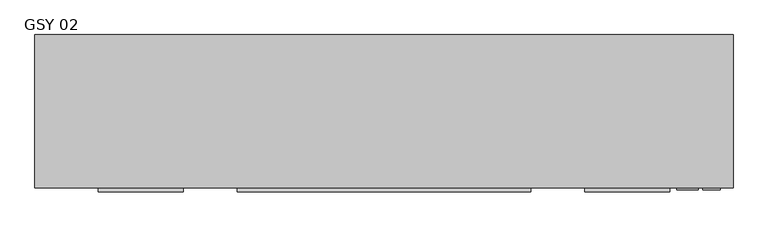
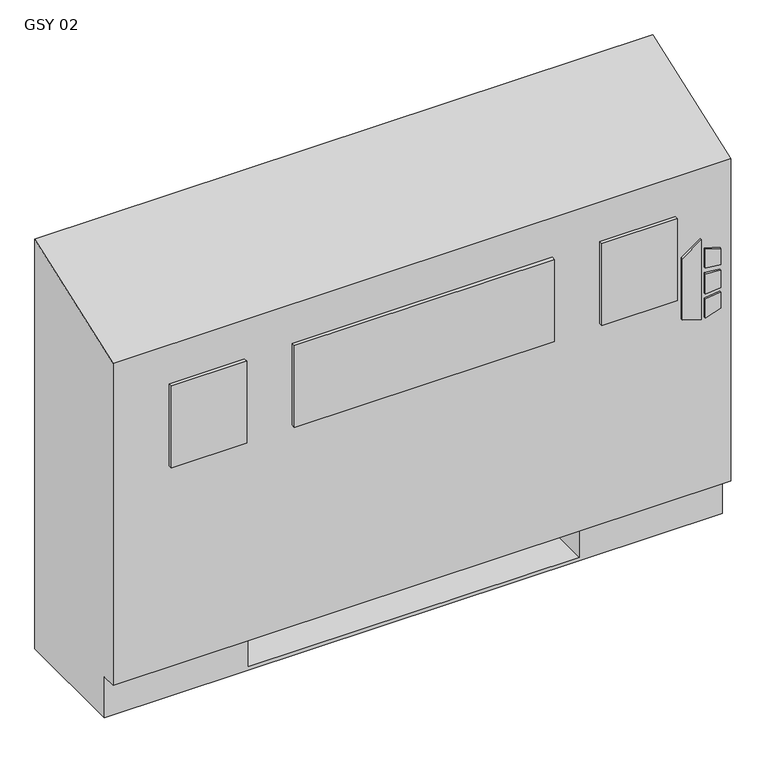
"""IFC4 building model written with IfcOpenShell, lengths in millimetres: proxy geometry, Vertical_Fan_Coil_Unit_-_GSY_-_IEC_-_2-Pipe_FS-FR_LH_2022 : GSY 02."""

from ifc_helpers import new_model, si_unit, point, frame, frame_2d, origin, place, context, project, spatial, polyline, circle_curve, trimmed, segment, composite_curve, outline, extrude, source, transform, mapped, element, save
from ifc_brep_helpers import plane_surface, revolved_surface, advanced_brep


def gsy_02_18074718(model_context):
    return source(origin(), model_context, "Body", "SolidModel", [
        extrude(outline(polyline([(391.6086829, 589.0368862), (381.6606126, 621.2102728), (523.831537, 621.2102728), (500.8095309, 589.0368862), (391.6086829, 589.0368862)])), frame((0.0, 12.7, 0.0), z_axis=(0.0, 1.0, 0.0), x_axis=(0.0, 0.0, 1.0)), (0.0, 0.0, 1.0), 3.175),
        extrude(outline(polyline([(470.6079683, 627.9686058), (467.4055757, 654.05), (496.6344168, 654.05), (504.6988318, 627.9686058), (470.6079683, 627.9686058)])), frame((0.0, 12.7, 0.0), z_axis=(0.0, 1.0, 0.0), x_axis=(0.0, 0.0, 1.0)), (0.0, 0.0, 1.0), 3.175),
        extrude(outline(polyline([(418.7444414, 654.05), (415.0789404, 627.9686058), (381.6606126, 627.9686058), (390.2948498, 654.05), (418.7444414, 654.05)])), frame((0.0, 12.7, 0.0), z_axis=(0.0, 1.0, 0.0), x_axis=(0.0, 0.0, 1.0)), (0.0, 0.0, 1.0), 3.175),
        extrude(outline(polyline([(458.0596028, 654.05), (460.3414292, 627.9686058), (424.4038806, 627.9686058), (427.1451456, 654.05), (458.0596028, 654.05)])), frame((0.0, 12.7, 0.0), z_axis=(0.0, 1.0, 0.0), x_axis=(0.0, 0.0, 1.0)), (0.0, 0.0, 1.0), 3.175),
        extrude(outline(polyline([(-147.193, 9.525), (-274.193, 9.525), (-274.193, 15.875), (-147.193, 15.875), (-147.193, 9.525)])), frame((0.0, 0.0, 431.8), z_axis=(0.0, 0.0, 1.0), x_axis=(1.0, 0.0, 0.0)), (0.0, 0.0, 1.0), 146.05),
        extrude(outline(polyline([(371.475, 9.525), (-66.675, 9.525), (-66.675, 15.875), (371.475, 15.875), (371.475, 9.525)])), frame((0.0, 0.0, 431.8), z_axis=(0.0, 0.0, 1.0), x_axis=(1.0, 0.0, 0.0)), (0.0, 0.0, 1.0), 146.05),
        extrude(outline(polyline([(578.993, 9.525), (451.993, 9.525), (451.993, 15.875), (578.993, 15.875), (578.993, 9.525)])), frame((0.0, 0.0, 431.8), z_axis=(0.0, 0.0, 1.0), x_axis=(1.0, 0.0, 0.0)), (0.0, 0.0, 1.0), 146.05),
        extrude(outline(polyline([(431.8, 81.534), (431.8, 223.266), (552.45, 223.266), (552.45, 81.534), (431.8, 81.534)])), frame((0.0, 0.0, 327.025), z_axis=(0.0, 0.0, 1.0), x_axis=(1.0, 0.0, 0.0)), (0.0, 0.0, 1.0), 260.35),
        extrude(outline(composite_curve([segment(trimmed(circle_curve(frame_2d((80.645, 397.002)), 7.9375), [point((80.645, 404.9395))], [point((80.645, 389.0645))], False, "CARTESIAN"), True, "CONTINUOUS"), segment(trimmed(circle_curve(frame_2d((80.645, 397.002)), 7.9375), [point((80.645, 389.0645))], [point((80.645, 404.9395))], False, "CARTESIAN"), True, "CONTINUOUS")], self_intersect=False)), frame((-177.8, 0.0, 0.0), z_axis=(1.0, 0.0, 0.0), x_axis=(0.0, 1.0, 0.0)), (0.0, 0.0, 1.0), 50.8),
        extrude(outline(composite_curve([segment(trimmed(circle_curve(frame_2d((156.8958, 535.8892)), 7.9375), [point((156.8958, 543.8267))], [point((156.8958, 527.9517))], False, "CARTESIAN"), True, "CONTINUOUS"), segment(trimmed(circle_curve(frame_2d((156.8958, 535.8892)), 7.9375), [point((156.8958, 527.9517))], [point((156.8958, 543.8267))], False, "CARTESIAN"), True, "CONTINUOUS")], self_intersect=False)), frame((-177.8, 0.0, 0.0), z_axis=(1.0, 0.0, 0.0), x_axis=(0.0, 1.0, 0.0)), (0.0, 0.0, 1.0), 50.8),
        advanced_brep(
        [(-368.3, 244.475, 0.0), (673.1, 244.475, 0.0), (673.1, 41.275, 0.0), (-368.3, 41.275, 0.0), (-368.3, 244.475, 730.25), (673.1, 244.475, 730.25), (431.8, 244.475, 73.025), (660.4, 244.475, 73.025), (660.4, 244.475, 654.05), (431.8, 244.475, 654.05), (431.8, 244.475, 414.8650565), (460.375, 244.475, 414.8650565), (460.375, 244.475, 385.2349435), (431.8, 244.475, 385.2349435), (431.8, 244.475, 287.3375), (460.375, 244.475, 287.3375), (460.375, 244.475, 258.7625), (431.8, 244.475, 258.7625), (431.8, 244.475, 141.2875), (460.375, 244.475, 141.2875), (460.375, 244.475, 112.7125), (431.8, 244.475, 112.7125), (-127.0, 244.475, 654.05), (-355.6, 244.475, 654.05), (-355.6, 244.475, 73.025), (-127.0, 244.475, 73.025), (-127.0, 244.475, 112.7125), (-155.575, 244.475, 112.7125), (-155.575, 244.475, 141.2875), (-127.0, 244.475, 141.2875), (-127.0, 244.475, 258.7625), (-155.575, 244.475, 258.7625), (-155.575, 244.475, 287.3375), (-127.0, 244.475, 287.3375), (-127.0, 244.475, 385.2349435), (-155.575, 244.475, 385.2349435), (-155.575, 244.475, 414.8650565), (-127.0, 244.475, 414.8650565), (450.0626, 244.475, 127.0), (438.9374, 244.475, 127.0), (450.0626, 244.475, 400.05), (438.9374, 244.475, 400.05), (450.0626, 244.475, 273.05), (438.9374, 244.475, 273.05), (-134.1374, 244.475, 127.0), (-145.2626, 244.475, 127.0), (-134.1374, 244.475, 273.05), (-145.2626, 244.475, 273.05), (-134.1374, 244.475, 400.05), (-145.2626, 244.475, 400.05), (-368.3, 41.275, 73.025), (-368.3, 15.875, 73.025), (-368.3, 15.875, 647.7), (673.1, 15.875, 73.025), (673.1, 15.875, 647.7), (673.1, 41.275, 73.025), (-127.0, 41.275, 73.025), (-127.0, 225.425, 73.025), (431.8, 225.425, 73.025), (431.8, 41.275, 73.025), (431.8, 41.275, 6.35), (-127.0, 41.275, 6.35), (431.8, 41.275, 654.05), (660.4, 41.275, 654.05), (660.4, 41.275, 73.025), (431.8, 41.275, 73.025), (-127.0, 41.275, 654.05), (-127.0, 41.275, 73.025), (-355.6, 41.275, 73.025), (-355.6, 41.275, 654.05), (431.8, 225.425, 73.025), (431.8, 238.125, 112.7125), (431.8, 238.125, 141.2875), (431.8, 238.125, 258.7625), (431.8, 238.125, 287.3375), (431.8, 238.125, 385.2349435), (431.8, 238.125, 414.8650565), (-127.0, 225.425, 73.025), (-127.0, 238.125, 414.8650565), (-127.0, 238.125, 385.2349435), (-127.0, 238.125, 287.3375), (-127.0, 238.125, 258.7625), (-127.0, 238.125, 141.2875), (-127.0, 238.125, 112.7125), (-127.0, 225.425, 6.35), (431.8, 225.425, 6.35), (460.375, 238.125, 112.7125), (460.375, 238.125, 141.2875), (438.9374, 238.125, 127.0), (450.0626, 238.125, 127.0), (460.375, 238.125, 258.7625), (460.375, 238.125, 287.3375), (438.9374, 238.125, 273.05), (450.0626, 238.125, 273.05), (460.375, 238.125, 385.2349435), (460.375, 238.125, 414.8650565), (438.9374, 238.125, 400.05), (450.0626, 238.125, 400.05), (-155.575, 238.125, 141.2875), (-155.575, 238.125, 112.7125), (-145.2626, 238.125, 127.0), (-134.1374, 238.125, 127.0), (-155.575, 238.125, 287.3375), (-155.575, 238.125, 258.7625), (-145.2626, 238.125, 273.05), (-134.1374, 238.125, 273.05), (-155.575, 238.125, 414.8650565), (-155.575, 238.125, 385.2349435), (-145.2626, 238.125, 400.05), (-134.1374, 238.125, 400.05)],
        [
            (0, 1),
            (1, 2),
            (2, 3),
            (3, 0),
            (0, 4),
            (4, 5),
            (5, 1),
            (6, 7),
            (7, 8),
            (8, 9),
            (9, 10),
            (10, 11),
            (11, 12),
            (12, 13),
            (13, 14),
            (14, 15),
            (15, 16),
            (16, 17),
            (17, 18),
            (18, 19),
            (19, 20),
            (20, 21),
            (21, 6),
            (22, 23),
            (23, 24),
            (24, 25),
            (25, 26),
            (26, 27),
            (27, 28),
            (28, 29),
            (29, 30),
            (30, 31),
            (31, 32),
            (32, 33),
            (33, 34),
            (34, 35),
            (35, 36),
            (36, 37),
            (37, 22),
            (38, 39, circle_curve(frame((444.5, 244.475, 127.0), z_axis=(0.0, -1.0, 0.0), x_axis=(-1.0, 0.0, 0.0)), 5.5626)),
            (39, 38, circle_curve(frame((444.5, 244.475, 127.0), z_axis=(0.0, -1.0, 0.0), x_axis=(-1.0, 0.0, 0.0)), 5.5626)),
            (40, 41, circle_curve(frame((444.5, 244.475, 400.05), z_axis=(0.0, -1.0, 0.0), x_axis=(-1.0, 0.0, 0.0)), 5.5626)),
            (41, 40, circle_curve(frame((444.5, 244.475, 400.05), z_axis=(0.0, -1.0, 0.0), x_axis=(-1.0, 0.0, 0.0)), 5.5626)),
            (42, 43, circle_curve(frame((444.5, 244.475, 273.05), z_axis=(0.0, -1.0, 0.0), x_axis=(-1.0, 0.0, 0.0)), 5.5626)),
            (43, 42, circle_curve(frame((444.5, 244.475, 273.05), z_axis=(0.0, -1.0, 0.0), x_axis=(-1.0, 0.0, 0.0)), 5.5626)),
            (44, 45, circle_curve(frame((-139.7, 244.475, 127.0), z_axis=(0.0, -1.0, 0.0), x_axis=(-1.0, 0.0, 0.0)), 5.5626)),
            (45, 44, circle_curve(frame((-139.7, 244.475, 127.0), z_axis=(0.0, -1.0, 0.0), x_axis=(-1.0, 0.0, 0.0)), 5.5626)),
            (46, 47, circle_curve(frame((-139.7, 244.475, 273.05), z_axis=(0.0, -1.0, 0.0), x_axis=(-1.0, 0.0, 0.0)), 5.5626)),
            (47, 46, circle_curve(frame((-139.7, 244.475, 273.05), z_axis=(0.0, -1.0, 0.0), x_axis=(-1.0, 0.0, 0.0)), 5.5626)),
            (48, 49, circle_curve(frame((-139.7, 244.475, 400.05), z_axis=(0.0, -1.0, 0.0), x_axis=(-1.0, 0.0, 0.0)), 5.5626)),
            (49, 48, circle_curve(frame((-139.7, 244.475, 400.05), z_axis=(0.0, -1.0, 0.0), x_axis=(-1.0, 0.0, 0.0)), 5.5626)),
            (3, 50),
            (50, 51),
            (51, 52),
            (52, 4),
            (51, 53),
            (53, 54),
            (54, 52),
            (5, 54),
            (53, 55),
            (55, 2),
            (50, 56),
            (56, 57),
            (57, 58),
            (58, 59),
            (59, 55),
            (59, 60),
            (60, 61),
            (61, 56),
            (62, 63),
            (63, 64),
            (64, 65),
            (65, 62),
            (66, 67),
            (67, 68),
            (68, 69),
            (69, 66),
            (65, 70),
            (70, 6),
            (21, 71),
            (71, 72),
            (72, 18),
            (17, 73),
            (73, 74),
            (74, 14),
            (13, 75),
            (75, 76),
            (76, 10),
            (9, 62),
            (64, 7),
            (63, 8),
            (69, 23),
            (22, 66),
            (68, 24),
            (67, 77),
            (77, 25),
            (37, 78),
            (78, 79),
            (79, 34),
            (33, 80),
            (80, 81),
            (81, 30),
            (29, 82),
            (82, 83),
            (83, 26),
            (57, 84),
            (84, 85),
            (85, 58),
            (85, 60),
            (84, 61),
            (71, 86),
            (86, 87),
            (87, 72),
            (88, 89, circle_curve(frame((444.5, 238.125, 127.0), z_axis=(0.0, 1.0, 0.0), x_axis=(-1.0, 0.0, 0.0)), 5.5626)),
            (89, 88, circle_curve(frame((444.5, 238.125, 127.0), z_axis=(0.0, 1.0, 0.0), x_axis=(-1.0, 0.0, 0.0)), 5.5626)),
            (73, 90),
            (90, 91),
            (91, 74),
            (92, 93, circle_curve(frame((444.5, 238.125, 273.05), z_axis=(0.0, 1.0, 0.0), x_axis=(-1.0, 0.0, 0.0)), 5.5626)),
            (93, 92, circle_curve(frame((444.5, 238.125, 273.05), z_axis=(0.0, 1.0, 0.0), x_axis=(-1.0, 0.0, 0.0)), 5.5626)),
            (75, 94),
            (94, 95),
            (95, 76),
            (96, 97, circle_curve(frame((444.5, 238.125, 400.05), z_axis=(0.0, 1.0, 0.0), x_axis=(-1.0, 0.0, 0.0)), 5.5626)),
            (97, 96, circle_curve(frame((444.5, 238.125, 400.05), z_axis=(0.0, 1.0, 0.0), x_axis=(-1.0, 0.0, 0.0)), 5.5626)),
            (98, 99),
            (99, 83),
            (82, 98),
            (100, 101, circle_curve(frame((-139.7, 238.125, 127.0), z_axis=(0.0, 1.0, 0.0), x_axis=(-1.0, 0.0, 0.0)), 5.5626)),
            (101, 100, circle_curve(frame((-139.7, 238.125, 127.0), z_axis=(0.0, 1.0, 0.0), x_axis=(-1.0, 0.0, 0.0)), 5.5626)),
            (102, 103),
            (103, 81),
            (80, 102),
            (104, 105, circle_curve(frame((-139.7, 238.125, 273.05), z_axis=(0.0, 1.0, 0.0), x_axis=(-1.0, 0.0, 0.0)), 5.5626)),
            (105, 104, circle_curve(frame((-139.7, 238.125, 273.05), z_axis=(0.0, 1.0, 0.0), x_axis=(-1.0, 0.0, 0.0)), 5.5626)),
            (106, 107),
            (107, 79),
            (78, 106),
            (108, 109, circle_curve(frame((-139.7, 238.125, 400.05), z_axis=(0.0, 1.0, 0.0), x_axis=(-1.0, 0.0, 0.0)), 5.5626)),
            (109, 108, circle_curve(frame((-139.7, 238.125, 400.05), z_axis=(0.0, 1.0, 0.0), x_axis=(-1.0, 0.0, 0.0)), 5.5626)),
            (87, 19),
            (86, 20),
            (91, 15),
            (90, 16),
            (95, 11),
            (94, 12),
            (28, 98),
            (99, 27),
            (32, 102),
            (103, 31),
            (36, 106),
            (107, 35),
            (88, 39),
            (38, 89),
            (96, 41),
            (40, 97),
            (92, 43),
            (42, 93),
            (100, 45),
            (44, 101),
            (104, 47),
            (46, 105),
            (108, 49),
            (48, 109),
        ],
        [
            plane_surface(frame((-368.3, 244.475, 0.0), z_axis=(0.0, 0.0, -1.0), x_axis=(1.0, 0.0, 0.0))),
            plane_surface(frame((673.1, 244.475, 730.25), z_axis=(0.0, 1.0, 0.0), x_axis=(0.0, 0.0, -1.0))),
            plane_surface(frame((-368.3, 244.475, 730.25), z_axis=(-1.0, 0.0, 0.0), x_axis=(0.0, 0.0, -1.0))),
            plane_surface(frame((-368.3, 15.875, 730.25), z_axis=(0.0, -1.0, 0.0), x_axis=(0.0, 0.0, -1.0))),
            plane_surface(frame((673.1, 15.875, 730.25), z_axis=(1.0, 0.0, 0.0), x_axis=(0.0, 0.0, -1.0))),
            plane_surface(frame((-368.3, 15.875, 73.025), z_axis=(0.0, 0.0, -1.0), x_axis=(1.0, 0.0, 0.0))),
            plane_surface(frame((-368.3, 41.275, 73.025), z_axis=(0.0, -1.0, 0.0), x_axis=(1.0, 0.0, 0.0))),
            plane_surface(frame((431.8, 41.275, 654.05), z_axis=(0.0, 1.0, 0.0), x_axis=(0.0, 0.0, -1.0))),
            plane_surface(frame((431.8, 41.275, 654.05), z_axis=(1.0, 0.0, 0.0), x_axis=(0.0, 1.0, 0.0))),
            plane_surface(frame((431.8, 41.275, 73.025), z_axis=(0.0, 0.0, 1.0), x_axis=(0.0, 1.0, 0.0))),
            plane_surface(frame((660.4, 41.275, 73.025), z_axis=(-1.0, 0.0, 0.0), x_axis=(0.0, 1.0, 0.0))),
            plane_surface(frame((660.4, 41.275, 654.05), z_axis=(0.0, 0.0, -1.0), x_axis=(0.0, 1.0, 0.0))),
            plane_surface(frame((-127.0, 41.275, 654.05), z_axis=(0.0, 0.0, -1.0), x_axis=(0.0, 1.0, 0.0))),
            plane_surface(frame((-355.6, 41.275, 654.05), z_axis=(1.0, 0.0, 0.0), x_axis=(0.0, 1.0, 0.0))),
            plane_surface(frame((-355.6, 41.275, 73.025), z_axis=(0.0, 0.0, 1.0), x_axis=(0.0, 1.0, 0.0))),
            plane_surface(frame((-127.0, 41.275, 73.025), z_axis=(-1.0, 0.0, 0.0), x_axis=(0.0, 1.0, 0.0))),
            plane_surface(frame((431.8, 225.425, 73.025), z_axis=(0.0, -1.0, 0.0), x_axis=(0.0, 0.0, -1.0))),
            plane_surface(frame((431.8, 225.425, 73.025), z_axis=(-1.0, 0.0, 0.0), x_axis=(0.0, -1.0, 0.0))),
            plane_surface(frame((431.8, 225.425, 6.35), z_axis=(0.0, 0.0, 1.0), x_axis=(0.0, -1.0, 0.0))),
            plane_surface(frame((-127.0, 225.425, 6.35), z_axis=(1.0, 0.0, 0.0), x_axis=(0.0, -1.0, 0.0))),
            plane_surface(frame((460.375, 238.125, 141.2875), z_axis=(0.0, -1.0, 0.0), x_axis=(-1.0, 0.0, 0.0))),
            plane_surface(frame((431.8, 244.475, 141.2875), z_axis=(0.0, 0.0, 1.0), x_axis=(0.0, -1.0, 0.0))),
            plane_surface(frame((460.375, 244.475, 141.2875), z_axis=(1.0, 0.0, 0.0), x_axis=(0.0, -1.0, 0.0))),
            plane_surface(frame((460.375, 244.475, 112.7125), z_axis=(0.0, 0.0, -1.0), x_axis=(0.0, -1.0, 0.0))),
            plane_surface(frame((431.8, 244.475, 287.3375), z_axis=(0.0, 0.0, 1.0), x_axis=(0.0, -1.0, 0.0))),
            plane_surface(frame((460.375, 244.475, 287.3375), z_axis=(1.0, 0.0, 0.0), x_axis=(0.0, -1.0, 0.0))),
            plane_surface(frame((460.375, 244.475, 258.7625), z_axis=(0.0, 0.0, -1.0), x_axis=(0.0, -1.0, 0.0))),
            plane_surface(frame((431.8, 244.475, 414.8650565), z_axis=(0.0, 0.0, 1.0), x_axis=(0.0, -1.0, 0.0))),
            plane_surface(frame((460.375, 244.475, 414.8650565), z_axis=(1.0, 0.0, 0.0), x_axis=(0.0, -1.0, 0.0))),
            plane_surface(frame((460.375, 244.475, 385.2349435), z_axis=(0.0, 0.0, -1.0), x_axis=(0.0, -1.0, 0.0))),
            plane_surface(frame((-155.575, 244.475, 141.2875), z_axis=(0.0, 0.0, 1.0), x_axis=(0.0, -1.0, 0.0))),
            plane_surface(frame((-127.0, 244.475, 112.7125), z_axis=(0.0, 0.0, -1.0), x_axis=(0.0, -1.0, 0.0))),
            plane_surface(frame((-155.575, 244.475, 112.7125), z_axis=(-1.0, 0.0, 0.0), x_axis=(0.0, -1.0, 0.0))),
            plane_surface(frame((-155.575, 244.475, 287.3375), z_axis=(0.0, 0.0, 1.0), x_axis=(0.0, -1.0, 0.0))),
            plane_surface(frame((-127.0, 244.475, 258.7625), z_axis=(0.0, 0.0, -1.0), x_axis=(0.0, -1.0, 0.0))),
            plane_surface(frame((-155.575, 244.475, 258.7625), z_axis=(-1.0, 0.0, 0.0), x_axis=(0.0, -1.0, 0.0))),
            plane_surface(frame((-155.575, 244.475, 414.8650565), z_axis=(0.0, 0.0, 1.0), x_axis=(0.0, -1.0, 0.0))),
            plane_surface(frame((-127.0, 244.475, 385.2349435), z_axis=(0.0, 0.0, -1.0), x_axis=(0.0, -1.0, 0.0))),
            plane_surface(frame((-155.575, 244.475, 385.2349435), z_axis=(-1.0, 0.0, 0.0), x_axis=(0.0, -1.0, 0.0))),
            revolved_surface(polyline([(438.9374, 238.125, 127.0), (438.9374, 244.475, 127.0)]), (444.5, 244.475, 127.0), (0.0, -1.0, 0.0)),
            revolved_surface(polyline([(438.9374, 238.125, 400.05), (438.9374, 244.475, 400.05)]), (444.5, 244.475, 400.05), (0.0, -1.0, 0.0)),
            revolved_surface(polyline([(438.9374, 238.125, 273.05), (438.9374, 244.475, 273.05)]), (444.5, 244.475, 273.05), (0.0, -1.0, 0.0)),
            revolved_surface(polyline([(-145.2626, 238.125, 127.0), (-145.2626, 244.475, 127.0)]), (-139.7, 244.475, 127.0), (0.0, -1.0, 0.0)),
            revolved_surface(polyline([(-145.2626, 238.125, 273.05), (-145.2626, 244.475, 273.05)]), (-139.7, 244.475, 273.05), (0.0, -1.0, 0.0)),
            revolved_surface(polyline([(-145.2626, 238.125, 400.05), (-145.2626, 244.475, 400.05)]), (-139.7, 244.475, 400.05), (0.0, -1.0, 0.0)),
            plane_surface(frame((-368.3, 244.475, 730.25), z_axis=(0.0, -0.33964446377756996, 0.9405538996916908), x_axis=(1.0, 0.0, 0.0))),
        ],
        [
            (0, [[1, 2, 3, 4]]),
            (1, [[-1, 5, 6, 7], [8, 9, 10, 11, 12, 13, 14, 15, 16, 17, 18, 19, 20, 21, 22, 23], [24, 25, 26, 27, 28, 29, 30, 31, 32, 33, 34, 35, 36, 37, 38, 39], [40, 41], [42, 43], [44, 45], [46, 47], [48, 49], [50, 51]]),
            (2, [[-5, -4, 52, 53, 54, 55]]),
            (3, [[56, 57, 58, -54]]),
            (4, [[-7, 59, -57, 60, 61, -2]]),
            (5, [[-53, 62, 63, 64, 65, 66, -60, -56]]),
            (6, [[-3, -61, -66, 67, 68, 69, -62, -52]]),
            (7, [[70, 71, 72, 73]]),
            (7, [[74, 75, 76, 77]]),
            (8, [[-73, 78, 79, -23, 80, 81, 82, -19, 83, 84, 85, -15, 86, 87, 88, -11, 89]]),
            (9, [[-72, 90, -8, -79, -78]]),
            (10, [[-71, 91, -9, -90]]),
            (11, [[-70, -89, -10, -91]]),
            (12, [[-77, 92, -24, 93]]),
            (13, [[-76, 94, -25, -92]]),
            (14, [[-75, 95, 96, -26, -94]]),
            (15, [[-74, -93, -39, 97, 98, 99, -35, 100, 101, 102, -31, 103, 104, 105, -27, -96, -95]]),
            (16, [[-64, 106, 107, 108]]),
            (17, [[-108, 109, -67, -65]]),
            (18, [[-107, 110, -68, -109]]),
            (19, [[-106, -63, -69, -110]]),
            (20, [[111, 112, 113, -81], [114, 115]]),
            (20, [[116, 117, 118, -84], [119, 120]]),
            (20, [[121, 122, 123, -87], [124, 125]]),
            (20, [[126, 127, -104, 128], [129, 130]]),
            (20, [[131, 132, -101, 133], [134, 135]]),
            (20, [[136, 137, -98, 138], [139, 140]]),
            (21, [[-113, 141, -20, -82]]),
            (22, [[-112, 142, -21, -141]]),
            (23, [[-111, -80, -22, -142]]),
            (24, [[-118, 143, -16, -85]]),
            (25, [[-117, 144, -17, -143]]),
            (26, [[-116, -83, -18, -144]]),
            (27, [[-123, 145, -12, -88]]),
            (28, [[-122, 146, -13, -145]]),
            (29, [[-121, -86, -14, -146]]),
            (30, [[-128, -103, -30, 147]]),
            (31, [[-127, 148, -28, -105]]),
            (32, [[-126, -147, -29, -148]]),
            (33, [[-133, -100, -34, 149]]),
            (34, [[-132, 150, -32, -102]]),
            (35, [[-131, -149, -33, -150]]),
            (36, [[-138, -97, -38, 151]]),
            (37, [[-137, 152, -36, -99]]),
            (38, [[-136, -151, -37, -152]]),
            (39, [[153, -40, 154, -114]]),
            (39, [[-153, -115, -154, -41]]),
            (40, [[155, -42, 156, -124]]),
            (40, [[-155, -125, -156, -43]]),
            (41, [[157, -44, 158, -119]]),
            (41, [[-157, -120, -158, -45]]),
            (42, [[159, -46, 160, -129]]),
            (42, [[-159, -130, -160, -47]]),
            (43, [[161, -48, 162, -134]]),
            (43, [[-161, -135, -162, -49]]),
            (44, [[163, -50, 164, -139]]),
            (44, [[-163, -140, -164, -51]]),
            (45, [[-6, -55, -58, -59]]),
        ],
    ),
    ])


if __name__ == "__main__":
    model = new_model("IFC4")
    model_context = context("Model", 3, world=origin())
    ifc_project = project(units=[si_unit("LENGTHUNIT", "METRE", prefix="MILLI")], contexts=[model_context])
    site = spatial("IfcSite", under=ifc_project)
    building = spatial("IfcBuilding", under=site)
    placement = place(None, origin())
    gsy_02_shape = gsy_02_18074718(model_context)
    element("IfcBuildingElementProxy", 1, Name="Vertical_Fan_Coil_Unit_-_GSY_-_IEC_-_2-Pipe_FS-FR_LH_2022 : GSY 02", ObjectType="Vertical_Fan_Coil_Unit_-_GSY_-_IEC_-_2-Pipe_FS-FR_LH_2022 : GSY 02", at=placement, inside=building, context=model_context, shape_type="MappedRepresentation", body=[
        mapped(gsy_02_shape, transform((0.0, 0.0, 0.0), x_axis=(1.0, 0.0, 0.0), y_axis=(0.0, 1.0, 0.0), z_axis=(0.0, 0.0, 1.0))),
    ])
    save(model, "model.ifc")
